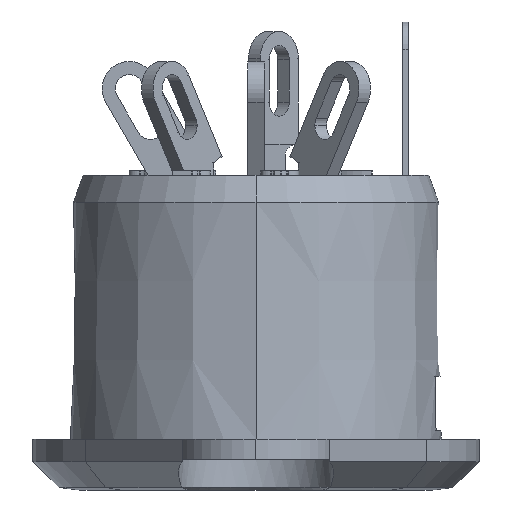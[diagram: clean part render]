
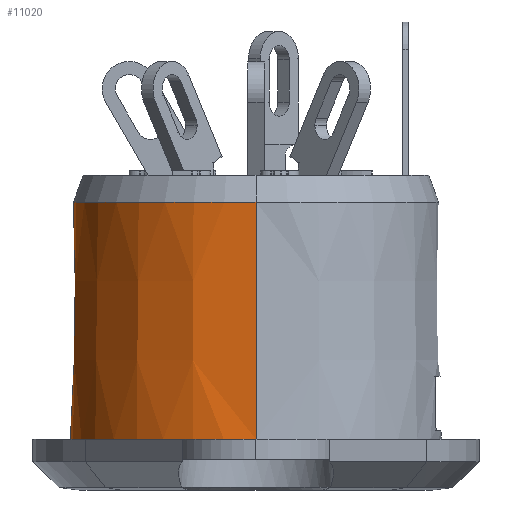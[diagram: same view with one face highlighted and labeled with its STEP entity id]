
A CAD part, left-side view. The second image highlights one B-rep face of the part: STEP entity #11020.
In plain terms, the highlighted conical face has half-angle 0.74 degrees and reference radius 7.9 mm.
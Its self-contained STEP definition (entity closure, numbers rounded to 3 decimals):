
#518 = LINE ( 'NONE', #23012, #30820 ) ;
#547 = CARTESIAN_POINT ( 'NONE',  ( -7.9, 0., 2.16 ) ) ;
#716 = DIRECTION ( 'NONE',  ( 1., 0., 0. ) ) ;
#1612 = FACE_OUTER_BOUND ( 'NONE', #23017, .T. ) ;
#2049 = CARTESIAN_POINT ( 'NONE',  ( 7.9, 0., 2.16 ) ) ;
#3364 = CIRCLE ( 'NONE', #9989, 7.77 ) ;
#3952 = DIRECTION ( 'NONE',  ( 0., 0., -1. ) ) ;
#4634 = CONICAL_SURFACE ( 'NONE', #28818, 7.9, 0.013 ) ;
#5155 = VECTOR ( 'NONE', #8261, 1000. ) ;
#5485 = CARTESIAN_POINT ( 'NONE',  ( -7.77, 0., 12.248 ) ) ;
#6024 = CARTESIAN_POINT ( 'NONE',  ( 0., 0., 2.16 ) ) ;
#6092 = CARTESIAN_POINT ( 'NONE',  ( 0., 0., 12.248 ) ) ;
#6416 = EDGE_CURVE ( 'NONE', #24305, #14972, #3364, .T. ) ;
#8261 = DIRECTION ( 'NONE',  ( -0.013, 0., -1. ) ) ;
#9656 = EDGE_CURVE ( 'NONE', #24305, #12166, #22648, .T. ) ;
#9989 = AXIS2_PLACEMENT_3D ( 'NONE', #6092, #3952, #716 ) ;
#11020 = ADVANCED_FACE ( 'NONE', ( #1612 ), #4634, .T. ) ;
#11952 = EDGE_CURVE ( 'NONE', #14972, #27988, #518, .T. ) ;
#12166 = VERTEX_POINT ( 'NONE', #16190 ) ;
#13400 = CARTESIAN_POINT ( 'NONE',  ( 7.77, 0., 12.248 ) ) ;
#14972 = VERTEX_POINT ( 'NONE', #13400 ) ;
#15020 = ORIENTED_EDGE ( 'NONE', *, *, #6416, .T. ) ;
#15546 = DIRECTION ( 'NONE',  ( 1., 0., 0. ) ) ;
#15703 = DIRECTION ( 'NONE',  ( 1., 0., 0. ) ) ;
#16190 = CARTESIAN_POINT ( 'NONE',  ( -7.9, 0., 2.16 ) ) ;
#16211 = ORIENTED_EDGE ( 'NONE', *, *, #30796, .T. ) ;
#17877 = CARTESIAN_POINT ( 'NONE',  ( 0., 0., 2.16 ) ) ;
#19778 = AXIS2_PLACEMENT_3D ( 'NONE', #17877, #20067, #15546 ) ;
#20067 = DIRECTION ( 'NONE',  ( 0., 0., 1. ) ) ;
#22648 = LINE ( 'NONE', #547, #5155 ) ;
#22708 = DIRECTION ( 'NONE',  ( 0.013, 0., -1. ) ) ;
#23012 = CARTESIAN_POINT ( 'NONE',  ( 7.9, 0., 2.16 ) ) ;
#23017 = EDGE_LOOP ( 'NONE', ( #27642, #15020, #29102, #16211 ) ) ;
#23081 = DIRECTION ( 'NONE',  ( 0., 0., -1. ) ) ;
#24305 = VERTEX_POINT ( 'NONE', #5485 ) ;
#25222 = CIRCLE ( 'NONE', #19778, 7.9 ) ;
#27642 = ORIENTED_EDGE ( 'NONE', *, *, #9656, .F. ) ;
#27988 = VERTEX_POINT ( 'NONE', #2049 ) ;
#28818 = AXIS2_PLACEMENT_3D ( 'NONE', #6024, #23081, #15703 ) ;
#29102 = ORIENTED_EDGE ( 'NONE', *, *, #11952, .T. ) ;
#30796 = EDGE_CURVE ( 'NONE', #27988, #12166, #25222, .T. ) ;
#30820 = VECTOR ( 'NONE', #22708, 1000. ) ;
